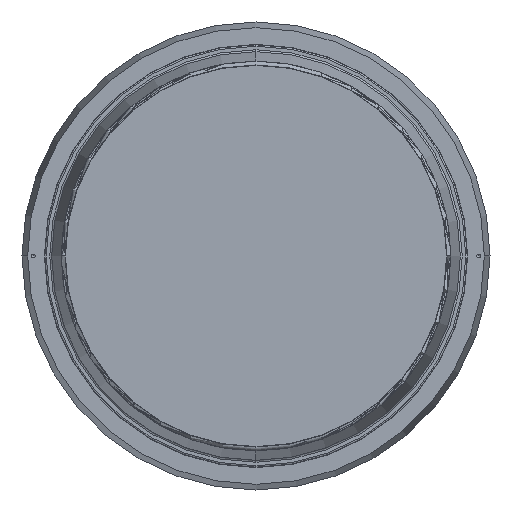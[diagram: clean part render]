
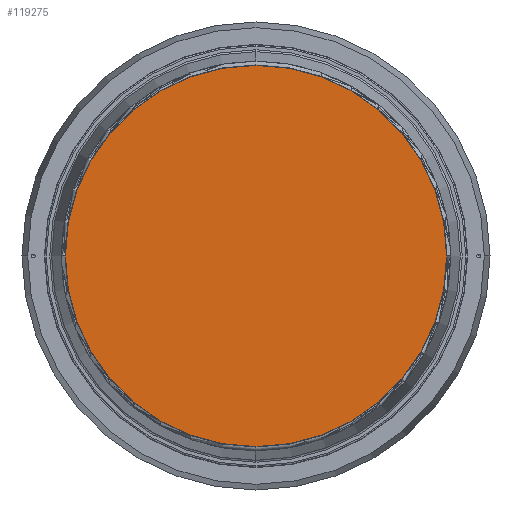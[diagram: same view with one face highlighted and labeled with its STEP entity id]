
A CAD part, front view. The second image highlights one B-rep face of the part: STEP entity #119275.
In plain terms, the highlighted planar face has unit normal (0, -1, 0).
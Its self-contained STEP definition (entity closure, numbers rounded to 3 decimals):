
#732 = AXIS2_PLACEMENT_3D ( 'NONE', #105941, #26571, #119289 ) ;
#12114 = CIRCLE ( 'NONE', #109804, 500.958 ) ;
#23546 = DIRECTION ( 'NONE',  ( 0., 1., 0. ) ) ;
#26571 = DIRECTION ( 'NONE',  ( 0., -1., 0. ) ) ;
#36598 = ORIENTED_EDGE ( 'NONE', *, *, #80184, .T. ) ;
#38351 = VERTEX_POINT ( 'NONE', #157893 ) ;
#39157 = ORIENTED_EDGE ( 'NONE', *, *, #97672, .T. ) ;
#76814 = CARTESIAN_POINT ( 'NONE',  ( 0., 0., 0. ) ) ;
#80184 = EDGE_CURVE ( 'NONE', #38351, #119454, #90914, .T. ) ;
#80761 = CARTESIAN_POINT ( 'NONE',  ( 500.958, 0., 0. ) ) ;
#88999 = PLANE ( 'NONE',  #164779 ) ;
#90198 = DIRECTION ( 'NONE',  ( 0., 0., -1. ) ) ;
#90914 = CIRCLE ( 'NONE', #732, 500.958 ) ;
#97672 = EDGE_CURVE ( 'NONE', #119454, #38351, #12114, .T. ) ;
#102901 = CARTESIAN_POINT ( 'NONE',  ( -502.042, 0., 500000. ) ) ;
#105941 = CARTESIAN_POINT ( 'NONE',  ( 0., 0., 0. ) ) ;
#109804 = AXIS2_PLACEMENT_3D ( 'NONE', #76814, #169857, #90198 ) ;
#116261 = DIRECTION ( 'NONE',  ( 0., 0., 1. ) ) ;
#119275 = ADVANCED_FACE ( 'NONE', ( #162524 ), #88999, .F. ) ;
#119289 = DIRECTION ( 'NONE',  ( 0., 0., -1. ) ) ;
#119454 = VERTEX_POINT ( 'NONE', #80761 ) ;
#138463 = EDGE_LOOP ( 'NONE', ( #39157, #36598 ) ) ;
#157893 = CARTESIAN_POINT ( 'NONE',  ( -500.958, 0., 0. ) ) ;
#162524 = FACE_OUTER_BOUND ( 'NONE', #138463, .T. ) ;
#164779 = AXIS2_PLACEMENT_3D ( 'NONE', #102901, #23546, #116261 ) ;
#169857 = DIRECTION ( 'NONE',  ( 0., -1., 0. ) ) ;
